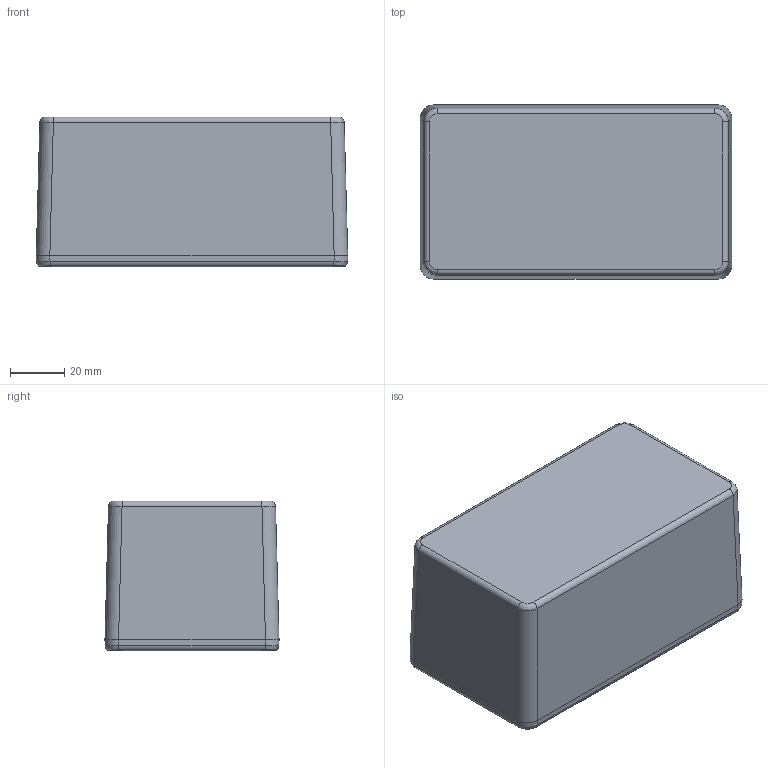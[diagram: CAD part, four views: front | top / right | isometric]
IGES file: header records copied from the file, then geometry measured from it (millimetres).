
Global section: file name: 1550D.iam; native system: Autodesk Inventor 2014; preprocessor: unknown; author: fwarzocha; date: 20141029.101323; units: millimetre
Bounding box: 114.5 x 64 x 55.1 mm (x, y, z)
Volume: 59684.7 mm3; surface area: 66273.8 mm2
Topology: 6 solids, 6 shells, 877 faces, 2353 edges, 1538 vertices
Faces by surface type: plane 355, bspline 342, revolution 116, cylinder 40, cone 24
Full cylindrical faces by diameter (mm): 3.43 x4
